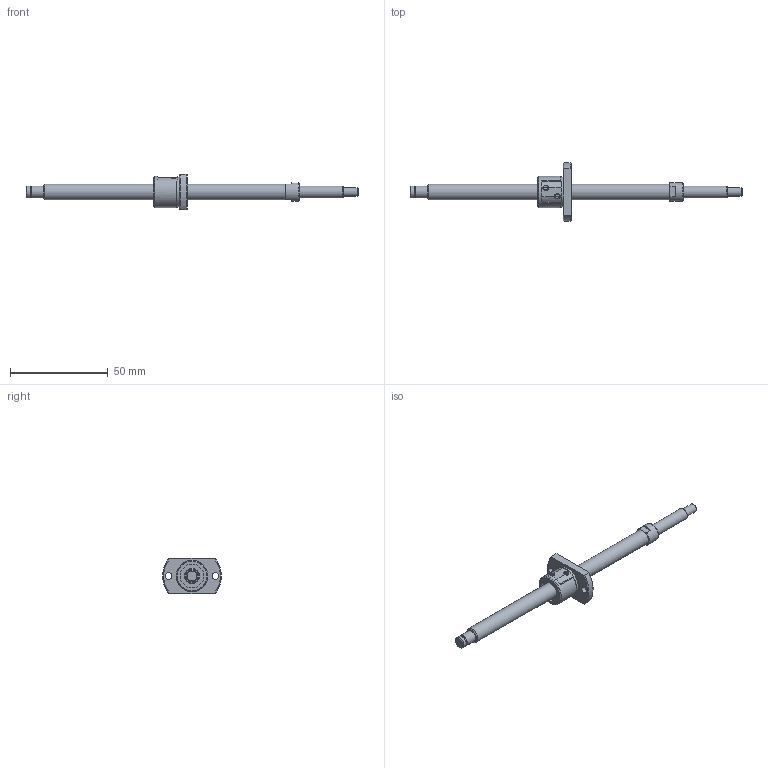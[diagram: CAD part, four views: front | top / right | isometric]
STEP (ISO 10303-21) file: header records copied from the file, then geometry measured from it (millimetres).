
FILE_DESCRIPTION(/* description */ ('STEP AP214'),/* implementation_level */ '2;1');
FILE_NAME(/* name */ 'SG0801-121R170C3B0X(56.5)',/* time_stamp */ '2026-07-21T16:38:35+02:00',/* author */ ('License CC BY-ND 4.0'),/* organization */ ('CADENAS'),/* preprocessor_version */ 'ST-DEVELOPER v20',/* originating_system */ 'PARTsolutions',/* authorisation */ ' ');
FILE_SCHEMA (('AUTOMOTIVE_DESIGN {1 0 10303 214 3 1 1}'));
Length unit declared in the file: millimetre
Products named in the file (3): SG0801-121R170C3B0X(56.5); SG0801-121R170C3B_shaft; SG0801_nut
Assembly tree (2 placements, depth 2):
  SG0801-121R170C3B0X(56.5)
    SG0801-121R170C3B_shaft
    SG0801_nut
Bounding box: 170 x 30 x 18 mm (x, y, z)
Volume: 11202.2 mm3; surface area: 6557.4 mm2
Topology: 2 solids, 2 shells, 81 faces, 193 edges, 126 vertices
Faces by surface type: plane 38, cylinder 28, cone 14, torus 1
Full cylindrical faces by diameter (mm): 3.4 x2, 4.5 x1, 5.7 x1, 6 x3, 8 x2, 9.5 x1, 12 x2, 15.6 x1, 16 x1
Entity records: 2263 total; most frequent: CARTESIAN_POINT 426, DIRECTION 382, ORIENTED_EDGE 318, AXIS2_PLACEMENT_3D 161, EDGE_CURVE 159, EDGE_LOOP 122, FACE_BOUND 122, VERTEX_POINT 117
